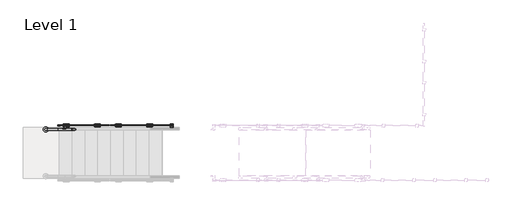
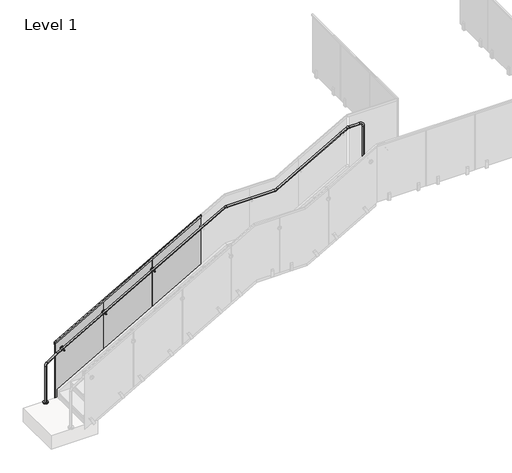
# One storey, part 10 of 17: 1 railing.
"""IFC4 building model written with IfcOpenShell, lengths in millimetres."""

from ifc_helpers import new_model, si_unit, point, frame, frame_2d, origin, origin_with_axes, place, context, project, spatial, polyline, circle_curve, ellipse_curve, trimmed, segment, composite_curve, outline, extrude, faceted_brep, element, save
from ifc_brep_helpers import plane_surface, cylinder_surface, revolved_surface, advanced_brep

model = new_model("IFC4")

# Units and contexts
model_context = context("Model", 3, world=origin())
ifc_project = project(units=[si_unit("LENGTHUNIT", "METRE", prefix="MILLI")], contexts=[model_context])

# Site, building, storey
site = spatial("IfcSite", under=ifc_project)
building = spatial("IfcBuilding", under=site)
storey = spatial("IfcBuildingStorey", under=building, Name="Level 1", Elevation=0.0)

# Railing
placement = place(None, origin())
element("IfcRailing", 1, ObjectType="VIVA-VISIO-Glass-Steel Fascia Mount-Stair_Lower", at=placement, inside=storey, context=model_context, shape_type="SolidModel", body=[
    extrude(outline(composite_curve([segment(trimmed(circle_curve(frame_2d((30754.4362561, -11656.3117549)), 50.8), [point((30754.4362561, -11707.1117549))], [point((30754.4362561, -11605.5117549))], False, "CARTESIAN"), True, "CONTINUOUS"), segment(trimmed(circle_curve(frame_2d((30754.4362561, -11656.3117549)), 50.8), [point((30754.4362561, -11605.5117549))], [point((30754.4362561, -11707.1117549))], False, "CARTESIAN"), True, "CONTINUOUS")], self_intersect=False)), frame((0.0, 0.0, 3048.0), z_axis=(0.0, 0.0, 1.0), x_axis=(1.0, 0.0, 0.0)), (0.0, 0.0, 1.0), 19.05),
    extrude(outline(composite_curve([segment(trimmed(circle_curve(frame_2d((24036.1362561, -11656.3117549)), 50.8), [point((24036.1362561, -11605.5117549))], [point((24036.1362561, -11707.1117549))], False, "CARTESIAN"), True, "CONTINUOUS"), segment(trimmed(circle_curve(frame_2d((24036.1362561, -11656.3117549)), 50.8), [point((24036.1362561, -11707.1117549))], [point((24036.1362561, -11605.5117549))], False, "CARTESIAN"), True, "CONTINUOUS")], self_intersect=False)), origin_with_axes(), (0.0, 0.0, 1.0), 19.05),
    advanced_brep(
    [(24036.1362561, -11675.3617549, 19.05), (24036.1362561, -11637.2617549, 19.05), (24036.1362561, -11675.3617549, 815.8777111), (24036.1362561, -11637.2617549, 815.8777111), (24072.8957549, -11637.2617549, 884.5634629), (24072.8957549, -11675.3617549, 884.5634629), (24278.7417076, -11675.3617549, 1021.794098), (24278.7417076, -11637.2617549, 1021.794098), (24283.5759394, -11637.2617549, 1024.7818176), (24283.5759394, -11675.3617549, 1024.7818176), (27379.3377028, -11675.3617549, 2793.7885396), (27379.3377028, -11637.2617549, 2793.7885396), (27813.1113335, -11675.3617549, 3041.6591857), (27813.1113335, -11637.2617549, 3041.6591857), (27854.0676029, -11637.2617549, 3052.5357143), (27854.0676029, -11675.3617549, 3052.5357143), (28866.9049093, -11675.3617549, 3052.5357143), (28866.9049093, -11637.2617549, 3052.5357143), (28926.7640722, -11637.2617549, 3068.4321792), (28926.7640722, -11675.3617549, 3068.4321792), (30403.9113335, -11675.3617549, 3912.5163285), (30403.9113335, -11637.2617549, 3912.5163285), (30444.8676029, -11637.2617549, 3923.3928571), (30444.8676029, -11675.3617549, 3923.3928571), (30671.8862561, -11675.3617549, 3923.3928571), (30671.8862561, -11637.2617549, 3923.3928571), (30754.4362561, -11637.2617549, 3840.8428571), (30754.4362561, -11675.3617549, 3840.8428571), (30754.4362561, -11675.3617549, 3067.05), (30754.4362561, -11637.2617549, 3067.05)],
    [
        (0, 1, circle_curve(frame((24036.1362561, -11656.3117549, 19.05), z_axis=(0.0, 0.0, -1.0), x_axis=(0.0, 1.0, 0.0)), 19.05)),
        (1, 0, circle_curve(frame((24036.1362561, -11656.3117549, 19.05), z_axis=(0.0, 0.0, -1.0), x_axis=(0.0, 1.0, 0.0)), 19.05)),
        (0, 2),
        (2, 3, circle_curve(frame((24036.1362561, -11656.3117549, 815.8777111), z_axis=(0.0, 0.0, -1.0), x_axis=(0.0, 1.0, 0.0)), 19.05)),
        (3, 1),
        (3, 2, circle_curve(frame((24036.1362561, -11656.3117549, 815.8777111), z_axis=(0.0, 0.0, -1.0), x_axis=(0.0, 1.0, 0.0)), 19.05)),
        (4, 3, circle_curve(frame((24118.6862561, -11637.2617549, 815.8777111), z_axis=(0.0, -1.0, 0.0), x_axis=(-0.9999999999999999, 0.0, 0.0)), 82.55)),
        (2, 5, circle_curve(frame((24118.6862561, -11675.3617549, 815.8777111), z_axis=(0.0, 1.0, 0.0), x_axis=(-0.9999999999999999, 0.0, 0.0)), 82.55)),
        (5, 4, circle_curve(frame((24072.8957549, -11656.3117549, 884.5634629), z_axis=(-0.8320502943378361, 0.0, -0.5547001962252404), x_axis=(0.0, 0.9999999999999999, 0.0)), 19.05)),
        (4, 5, circle_curve(frame((24072.8957549, -11656.3117549, 884.5634629), z_axis=(-0.8320502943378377, 0.0, -0.5547001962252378), x_axis=(0.0, 0.9999999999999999, 0.0)), 19.05)),
        (5, 6),
        (6, 7, circle_curve(frame((24278.7417076, -11656.3117549, 1021.794098), z_axis=(-0.8320502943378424, 0.0, -0.554700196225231), x_axis=(0.0, 1.0, 0.0)), 19.05)),
        (7, 4),
        (7, 6, circle_curve(frame((24278.7417076, -11656.3117549, 1021.794098), z_axis=(-0.8320502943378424, 0.0, -0.554700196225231), x_axis=(0.0, 1.0, 0.0)), 19.05)),
        (8, 9, circle_curve(frame((24283.5759394, -11656.3117549, 1024.7818176), z_axis=(0.8682431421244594, 0.0, 0.4961389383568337), x_axis=(0.0, 1.0, 0.0)), 19.05)),
        (9, 10),
        (10, 11, circle_curve(frame((27379.3377028, -11656.3117549, 2793.7885396), z_axis=(-0.8682431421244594, 0.0, -0.4961389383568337), x_axis=(0.0, 1.0, 0.0)), 19.05)),
        (11, 8),
        (9, 8, circle_curve(frame((24283.5759394, -11656.3117549, 1024.7818176), z_axis=(0.8682431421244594, 0.0, 0.4961389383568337), x_axis=(0.0, 1.0, 0.0)), 19.05)),
        (11, 10, circle_curve(frame((27379.3377028, -11656.3117549, 2793.7885396), z_axis=(-0.8682431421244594, 0.0, -0.4961389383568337), x_axis=(0.0, 1.0, 0.0)), 19.05)),
        (8, 7, circle_curve(frame((24324.5322088, -11637.2617549, 953.1083462), z_axis=(0.0, -1.0, 0.0), x_axis=(-0.5547001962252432, 0.0, 0.8320502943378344)), 82.55)),
        (6, 9, circle_curve(frame((24324.5322088, -11675.3617549, 953.1083462), z_axis=(0.0, 1.0, 0.0), x_axis=(-0.5547001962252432, 0.0, 0.8320502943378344)), 82.55)),
        (10, 12),
        (12, 13, circle_curve(frame((27813.1113335, -11656.3117549, 3041.6591857), z_axis=(-0.8682431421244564, 0.0, -0.4961389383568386), x_axis=(0.0, 1.0, 0.0)), 19.05)),
        (13, 11),
        (13, 12, circle_curve(frame((27813.1113335, -11656.3117549, 3041.6591857), z_axis=(-0.8682431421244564, 0.0, -0.4961389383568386), x_axis=(0.0, 1.0, 0.0)), 19.05)),
        (14, 13, circle_curve(frame((27854.0676029, -11637.2617549, 2969.9857143), z_axis=(0.0, -1.0, 0.0), x_axis=(-0.49613893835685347, 0.0, 0.8682431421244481)), 82.55)),
        (12, 15, circle_curve(frame((27854.0676029, -11675.3617549, 2969.9857143), z_axis=(0.0, 1.0, 0.0), x_axis=(-0.49613893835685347, 0.0, 0.8682431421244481)), 82.55)),
        (15, 14, circle_curve(frame((27854.0676029, -11656.3117549, 3052.5357143), z_axis=(-1.0000000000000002, 0.0, 0.0), x_axis=(0.0, 1.0, 0.0)), 19.05)),
        (14, 15, circle_curve(frame((27854.0676029, -11656.3117549, 3052.5357143), z_axis=(-1.0, 0.0, 0.0), x_axis=(0.0, 1.0, 0.0)), 19.05)),
        (15, 16),
        (16, 17, circle_curve(frame((28866.9049093, -11656.3117549, 3052.5357143), z_axis=(-1.0, 0.0, 0.0), x_axis=(0.0, 1.0, 0.0)), 19.05)),
        (17, 14),
        (17, 16, circle_curve(frame((28866.9049093, -11656.3117549, 3052.5357143), z_axis=(-1.0, 0.0, 0.0), x_axis=(0.0, 1.0, 0.0)), 19.05)),
        (18, 17, circle_curve(frame((28866.9049093, -11637.2617549, 3173.1857143), z_axis=(0.0, 1.0, 0.0), x_axis=(0.0, 0.0, -0.9999999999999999)), 120.65)),
        (16, 19, circle_curve(frame((28866.9049093, -11675.3617549, 3173.1857143), z_axis=(0.0, -1.0, 0.0), x_axis=(0.0, 0.0, -0.9999999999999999)), 120.65)),
        (19, 18, circle_curve(frame((28926.7640722, -11656.3117549, 3068.4321792), z_axis=(-0.8682431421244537, 0.0, -0.4961389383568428), x_axis=(0.0, 0.9999999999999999, 0.0)), 19.05)),
        (18, 19, circle_curve(frame((28926.7640722, -11656.3117549, 3068.4321792), z_axis=(-0.8682431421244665, 0.0, -0.49613893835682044), x_axis=(0.0, 0.9999999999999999, 0.0)), 19.05)),
        (19, 20),
        (20, 21, circle_curve(frame((30403.9113335, -11656.3117549, 3912.5163285), z_axis=(-0.8682431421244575, 0.0, -0.49613893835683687), x_axis=(0.0, 1.0, 0.0)), 19.05)),
        (21, 18),
        (21, 20, circle_curve(frame((30403.9113335, -11656.3117549, 3912.5163285), z_axis=(-0.8682431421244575, 0.0, -0.49613893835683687), x_axis=(0.0, 1.0, 0.0)), 19.05)),
        (22, 21, circle_curve(frame((30444.8676029, -11637.2617549, 3840.8428571), z_axis=(0.0, -1.0, 0.0), x_axis=(-0.49613893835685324, 0.0, 0.868243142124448)), 82.55)),
        (20, 23, circle_curve(frame((30444.8676029, -11675.3617549, 3840.8428571), z_axis=(0.0, 1.0, 0.0), x_axis=(-0.49613893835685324, 0.0, 0.868243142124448)), 82.55)),
        (23, 22, circle_curve(frame((30444.8676029, -11656.3117549, 3923.3928571), z_axis=(-0.9999999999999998, 0.0, 0.0), x_axis=(0.0, 0.9999999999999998, 0.0)), 19.05)),
        (22, 23, circle_curve(frame((30444.8676029, -11656.3117549, 3923.3928571), z_axis=(-0.9999999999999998, 0.0, 0.0), x_axis=(0.0, 0.9999999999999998, 0.0)), 19.05)),
        (23, 24),
        (24, 25, circle_curve(frame((30671.8862561, -11656.3117549, 3923.3928571), z_axis=(-1.0, 0.0, 0.0), x_axis=(0.0, 1.0, 0.0)), 19.05)),
        (25, 22),
        (25, 24, circle_curve(frame((30671.8862561, -11656.3117549, 3923.3928571), z_axis=(-1.0, 0.0, 0.0), x_axis=(0.0, 1.0, 0.0)), 19.05)),
        (26, 25, circle_curve(frame((30671.8862561, -11637.2617549, 3840.8428571), z_axis=(0.0, -1.0, 0.0), x_axis=(0.0, 0.0, 1.0)), 82.55)),
        (24, 27, circle_curve(frame((30671.8862561, -11675.3617549, 3840.8428571), z_axis=(0.0, 1.0, 0.0), x_axis=(0.0, 0.0, 1.0)), 82.55)),
        (27, 26, circle_curve(frame((30754.4362561, -11656.3117549, 3840.8428571), z_axis=(0.0, 0.0, 1.0), x_axis=(0.0, 1.0, 0.0)), 19.05)),
        (26, 27, circle_curve(frame((30754.4362561, -11656.3117549, 3840.8428571), z_axis=(0.0, 0.0, 1.0), x_axis=(0.0, 1.0, 0.0)), 19.05)),
        (28, 29, circle_curve(frame((30754.4362561, -11656.3117549, 3067.05), z_axis=(0.0, 0.0, -1.0), x_axis=(0.0, 1.0, 0.0)), 19.05)),
        (29, 28, circle_curve(frame((30754.4362561, -11656.3117549, 3067.05), z_axis=(0.0, 0.0, -1.0), x_axis=(0.0, 1.0, 0.0)), 19.05)),
        (27, 28),
        (29, 26),
    ],
    [
        plane_surface(frame((24017.0862561, -11694.4117549, 19.05), z_axis=(0.0, 0.0, -1.0), x_axis=(1.0, 0.0, 0.0))),
        cylinder_surface(frame((24036.1362561, -11656.3117549, 19.05), z_axis=(0.0, 0.0, -1.0), x_axis=(0.0, 1.0, 0.0)), 19.05),
        revolved_surface(trimmed(ellipse_curve(frame((24036.1362561, -11656.3117549, 815.8777111), z_axis=(0.0, 0.0, -0.9999999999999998), x_axis=(0.0, 0.9999999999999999, 0.0)), 19.05, 19.05), [point((24036.1362561, -11675.3617549, 815.8777111))], [point((24036.1362561, -11637.2617549, 815.8777111))], True, "CARTESIAN"), (24118.6862561, -11656.3117549, 815.8777111), (0.0, 0.9999999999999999, 0.0)),
        revolved_surface(trimmed(ellipse_curve(frame((24036.1362561, -11656.3117549, 815.8777111), z_axis=(0.0, 0.0, -0.9999999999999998), x_axis=(0.0, 0.9999999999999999, 0.0)), 19.05, 19.05), [point((24036.1362561, -11637.2617549, 815.8777111))], [point((24036.1362561, -11675.3617549, 815.8777111))], True, "CARTESIAN"), (24118.6862561, -11656.3117549, 815.8777111), (0.0, 0.9999999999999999, 0.0)),
        cylinder_surface(frame((24072.8957549, -11656.3117549, 884.5634629), z_axis=(-0.8320502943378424, 0.0, -0.554700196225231), x_axis=(0.0, 1.0, 0.0)), 19.05),
        cylinder_surface(frame((24283.5759394, -11656.3117549, 1024.7818176), z_axis=(-0.8682431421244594, 0.0, -0.4961389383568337), x_axis=(0.0, 1.0, 0.0)), 19.05),
        revolved_surface(trimmed(ellipse_curve(frame((24278.7417076, -11656.3117549, 1021.794098), z_axis=(-0.8320502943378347, 0.0, -0.5547001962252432), x_axis=(0.0, 1.0000000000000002, 0.0)), 19.05, 19.05), [point((24278.7417076, -11675.3617549, 1021.794098))], [point((24278.7417076, -11637.2617549, 1021.794098))], True, "CARTESIAN"), (24324.5322088, -11656.3117549, 953.1083462), (0.0, 1.0000000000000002, 0.0)),
        revolved_surface(trimmed(ellipse_curve(frame((24278.7417076, -11656.3117549, 1021.794098), z_axis=(-0.8320502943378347, 0.0, -0.5547001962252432), x_axis=(0.0, 1.0000000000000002, 0.0)), 19.05, 19.05), [point((24278.7417076, -11637.2617549, 1021.794098))], [point((24278.7417076, -11675.3617549, 1021.794098))], True, "CARTESIAN"), (24324.5322088, -11656.3117549, 953.1083462), (0.0, 1.0000000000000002, 0.0)),
        cylinder_surface(frame((27379.3377028, -11656.3117549, 2793.7885396), z_axis=(-0.8682431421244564, 0.0, -0.4961389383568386), x_axis=(0.0, 1.0, 0.0)), 19.05),
        revolved_surface(trimmed(ellipse_curve(frame((27813.1113335, -11656.3117549, 3041.6591857), z_axis=(-0.8682431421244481, 0.0, -0.49613893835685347), x_axis=(0.0, 1.0, 0.0)), 19.05, 19.05), [point((27813.1113335, -11675.3617549, 3041.6591857))], [point((27813.1113335, -11637.2617549, 3041.6591857))], True, "CARTESIAN"), (27854.0676029, -11656.3117549, 2969.9857143), (0.0, 1.0, 0.0)),
        revolved_surface(trimmed(ellipse_curve(frame((27813.1113335, -11656.3117549, 3041.6591857), z_axis=(-0.8682431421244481, 0.0, -0.49613893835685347), x_axis=(0.0, 1.0, 0.0)), 19.05, 19.05), [point((27813.1113335, -11637.2617549, 3041.6591857))], [point((27813.1113335, -11675.3617549, 3041.6591857))], True, "CARTESIAN"), (27854.0676029, -11656.3117549, 2969.9857143), (0.0, 1.0, 0.0)),
        cylinder_surface(frame((27854.0676029, -11656.3117549, 3052.5357143), z_axis=(-1.0, 0.0, 0.0), x_axis=(0.0, 1.0, 0.0)), 19.05),
        revolved_surface(trimmed(ellipse_curve(frame((28866.9049093, -11656.3117549, 3052.5357143), z_axis=(-0.9999999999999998, 0.0, 0.0), x_axis=(0.0, 0.9999999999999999, 0.0)), 19.05, 19.05), [point((28866.9049093, -11675.3617549, 3052.5357143))], [point((28866.9049093, -11637.2617549, 3052.5357143))], True, "CARTESIAN"), (28866.9049093, -11656.3117549, 3173.1857143), (0.0, -0.9999999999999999, 0.0)),
        revolved_surface(trimmed(ellipse_curve(frame((28866.9049093, -11656.3117549, 3052.5357143), z_axis=(-0.9999999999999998, 0.0, 0.0), x_axis=(0.0, 0.9999999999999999, 0.0)), 19.05, 19.05), [point((28866.9049093, -11637.2617549, 3052.5357143))], [point((28866.9049093, -11675.3617549, 3052.5357143))], True, "CARTESIAN"), (28866.9049093, -11656.3117549, 3173.1857143), (0.0, -0.9999999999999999, 0.0)),
        cylinder_surface(frame((28926.7640722, -11656.3117549, 3068.4321792), z_axis=(-0.8682431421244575, 0.0, -0.49613893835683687), x_axis=(0.0, 1.0, 0.0)), 19.05),
        revolved_surface(trimmed(ellipse_curve(frame((30403.9113335, -11656.3117549, 3912.5163285), z_axis=(-0.8682431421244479, 0.0, -0.49613893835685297), x_axis=(0.0, 0.9999999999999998, 0.0)), 19.05, 19.05), [point((30403.9113335, -11675.3617549, 3912.5163285))], [point((30403.9113335, -11637.2617549, 3912.5163285))], True, "CARTESIAN"), (30444.8676029, -11656.3117549, 3840.8428571), (0.0, 0.9999999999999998, 0.0)),
        revolved_surface(trimmed(ellipse_curve(frame((30403.9113335, -11656.3117549, 3912.5163285), z_axis=(-0.8682431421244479, 0.0, -0.49613893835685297), x_axis=(0.0, 0.9999999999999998, 0.0)), 19.05, 19.05), [point((30403.9113335, -11637.2617549, 3912.5163285))], [point((30403.9113335, -11675.3617549, 3912.5163285))], True, "CARTESIAN"), (30444.8676029, -11656.3117549, 3840.8428571), (0.0, 0.9999999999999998, 0.0)),
        cylinder_surface(frame((30444.8676029, -11656.3117549, 3923.3928571), z_axis=(-1.0, 0.0, 0.0), x_axis=(0.0, 1.0, 0.0)), 19.05),
        revolved_surface(trimmed(ellipse_curve(frame((30671.8862561, -11656.3117549, 3923.3928571), z_axis=(-1.0, 0.0, 0.0), x_axis=(0.0, 1.0, 0.0)), 19.05, 19.05), [point((30671.8862561, -11675.3617549, 3923.3928571))], [point((30671.8862561, -11637.2617549, 3923.3928571))], True, "CARTESIAN"), (30671.8862561, -11656.3117549, 3840.8428571), (0.0, 1.0, 0.0)),
        revolved_surface(trimmed(ellipse_curve(frame((30671.8862561, -11656.3117549, 3923.3928571), z_axis=(-1.0, 0.0, 0.0), x_axis=(0.0, 1.0, 0.0)), 19.05, 19.05), [point((30671.8862561, -11637.2617549, 3923.3928571))], [point((30671.8862561, -11675.3617549, 3923.3928571))], True, "CARTESIAN"), (30671.8862561, -11656.3117549, 3840.8428571), (0.0, 1.0, 0.0)),
        plane_surface(frame((30773.4862561, -11694.4117549, 3067.05), z_axis=(0.0, 0.0, -1.0), x_axis=(-1.0, 0.0, 0.0))),
        cylinder_surface(frame((30754.4362561, -11656.3117549, 3840.8428571), z_axis=(0.0, 0.0, 1.0), x_axis=(0.0, 1.0, 0.0)), 19.05),
    ],
    [
        (0, [[1, 2]]),
        (1, [[-1, 3, 4, 5]]),
        (1, [[-2, -5, 6, -3]]),
        (2, [[7, -4, 8, 9]]),
        (3, [[-8, -6, -7, 10]]),
        (4, [[-9, 11, 12, 13]]),
        (4, [[-10, -13, 14, -11]]),
        (5, [[15, 16, 17, 18]]),
        (5, [[19, -18, 20, -16]]),
        (6, [[21, -12, 22, -15]]),
        (7, [[-22, -14, -21, -19]]),
        (8, [[-17, 23, 24, 25]]),
        (8, [[-20, -25, 26, -23]]),
        (9, [[27, -24, 28, 29]]),
        (10, [[-28, -26, -27, 30]]),
        (11, [[-29, 31, 32, 33]]),
        (11, [[-30, -33, 34, -31]]),
        (12, [[35, -32, 36, 37]]),
        (13, [[-36, -34, -35, 38]]),
        (14, [[-37, 39, 40, 41]]),
        (14, [[-38, -41, 42, -39]]),
        (15, [[43, -40, 44, 45]]),
        (16, [[-44, -42, -43, 46]]),
        (17, [[-45, 47, 48, 49]]),
        (17, [[-46, -49, 50, -47]]),
        (18, [[51, -48, 52, 53]]),
        (19, [[-52, -50, -51, 54]]),
        (20, [[55, 56]]),
        (21, [[-53, 57, -56, 58]]),
        (21, [[-54, -58, -55, -57]]),
    ],
),
    faceted_brep([(24271.0862561, -11584.5567549, 1217.3857143), (24271.0862561, -11562.8278486, 1217.3857143), (24271.0862561, -11562.8278486, 1173.5039971), (24271.0862561, -11567.3423017, 1173.5039971), (24271.0862561, -11567.3423017, 1212.9975426), (24271.0862561, -11580.0423017, 1212.9975426), (24271.0862561, -11580.0423017, 1173.5039971), (24271.0862561, -11584.5567549, 1173.5039971), (27369.8862561, -11584.5567549, 2988.1285714), (27369.8862561, -11584.5567549, 2944.2468543), (27369.8862561, -11580.0423017, 2944.2468543), (27369.8862561, -11580.0423017, 2983.7403997), (27369.8862561, -11567.3423017, 2983.7403997), (27369.8862561, -11567.3423017, 2944.2468543), (27369.8862561, -11562.8278486, 2944.2468543), (27369.8862561, -11562.8278486, 2988.1285714)], [[[0, 1, 2, 3, 4, 5, 6, 7]], [[8, 9, 10, 11, 12, 13, 14, 15]], [[1, 0, 8, 15]], [[2, 1, 15, 14]], [[3, 2, 14, 13]], [[4, 3, 13, 12]], [[5, 4, 12, 11]], [[6, 5, 11, 10]], [[7, 6, 10, 9]], [[0, 7, 9, 8]]]),
    extrude(outline(polyline([(0.0, -12.7), (0.0, 0.0), (50.8, 0.0), (50.8, -12.7), (0.0, -12.7)])), frame((27136.9894064, -11599.1617549, 1528.4517196), z_axis=(-0.4961389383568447, 0.0, 0.868243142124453), x_axis=(0.868243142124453, 0.0, 0.4961389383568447)), (0.0, 0.0, 1.0), 135.5680003),
    extrude(outline(polyline([(0.0, -12.7), (0.0, 0.0), (50.7999999, 0.0), (50.7999999, -12.7), (0.0, -12.7)])), frame((27138.2329955, -11567.4117549, 1526.2754387), z_axis=(-0.496138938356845, 0.0, 0.8682431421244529), x_axis=(0.8682431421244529, 0.0, 0.496138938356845)), (0.0, 0.0, 1.0), 36.5125),
    extrude(outline(polyline([(0.0, 0.0), (139.7, 0.0), (166.6875, -11.1125), (166.6875, -19.05), (0.0, -19.05), (0.0, 0.0)])), frame((27138.2329955, -11599.1617549, 1526.2754387), z_axis=(0.868243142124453, 0.0, 0.49613893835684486), x_axis=(-0.49613893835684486, 0.0, 0.868243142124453)), (0.0, 0.0, 1.0), 50.8),
    extrude(outline(polyline([(0.0, -50.8), (0.0, -31.75), (166.6875, -31.75), (166.6875, -39.6875), (139.7, -50.8), (0.0, -50.8)])), frame((27138.2329955, -11599.1617549, 1526.2754387), z_axis=(0.868243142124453, 0.0, 0.49613893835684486), x_axis=(-0.49613893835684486, 0.0, 0.868243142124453)), (0.0, 0.0, 1.0), 50.8),
    extrude(outline(polyline([(2981.5065494, 27361.802636), (2400.9351209, 26345.802636), (1115.5486476, 26345.802636), (1696.1200762, 27361.802636), (2981.5065494, 27361.802636)])), frame((0.0, -11580.1117549, 0.0), z_axis=(0.0, 1.0, 0.0), x_axis=(0.0, 0.0, 1.0)), (0.0, 0.0, 1.0), 12.7),
    extrude(outline(polyline([(0.0, -12.7), (0.0, 0.0), (50.8, 0.0), (50.8, -12.7), (0.0, -12.7)])), frame((26517.2294064, -11599.1617549, 1174.3031482), z_axis=(-0.4961389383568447, 0.0, 0.868243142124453), x_axis=(0.868243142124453, 0.0, 0.4961389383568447)), (0.0, 0.0, 1.0), 135.5680003),
    extrude(outline(polyline([(0.0, -12.7), (0.0, 0.0), (50.8, 0.0), (50.8, -12.7), (0.0, -12.7)])), frame((26518.4729955, -11567.4117549, 1172.1268672), z_axis=(-0.496138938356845, 0.0, 0.8682431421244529), x_axis=(0.8682431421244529, 0.0, 0.496138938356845)), (0.0, 0.0, 1.0), 36.5125),
    extrude(outline(polyline([(0.0, 0.0), (139.7, 0.0), (166.6875, -11.1125), (166.6875, -19.05), (0.0, -19.05), (0.0, 0.0)])), frame((26518.4729955, -11599.1617549, 1172.1268672), z_axis=(0.868243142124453, 0.0, 0.49613893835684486), x_axis=(-0.49613893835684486, 0.0, 0.868243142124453)), (0.0, 0.0, 1.0), 50.8),
    extrude(outline(polyline([(0.0, -50.8), (0.0, -31.75), (166.6875, -31.75), (166.6875, -39.6875), (139.7, -50.8), (0.0, -50.8)])), frame((26518.4729955, -11599.1617549, 1172.1268672), z_axis=(0.868243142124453, 0.0, 0.49613893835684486), x_axis=(-0.49613893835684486, 0.0, 0.868243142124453)), (0.0, 0.0, 1.0), 50.8),
    extrude(outline(composite_curve([segment(trimmed(circle_curve(frame_2d((0.0, 7.0)), 7.0), [point((0.0, 14.0))], [point((0.0, 0.0))], False, "CARTESIAN"), True, "CONTINUOUS"), segment(trimmed(circle_curve(frame_2d((0.0, 7.0)), 7.0), [point((0.0, 0.0))], [point((0.0, 14.0))], False, "CARTESIAN"), True, "CONTINUOUS")], self_intersect=False)), frame((26349.7491159, -11648.9816158, 2118.4424369), z_axis=(-0.5018548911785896, 0.0, 0.8649518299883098), x_axis=(-0.8649518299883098, 0.0, -0.5018548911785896)), (0.0, 0.0, 1.0), 52.8378352),
    extrude(outline(composite_curve([segment(polyline([(5.2466064, -13.9247915), (4.2292194, -14.9511811)]), True, "CONTINUOUS"), segment(trimmed(circle_curve(frame_2d((3.1638975, -13.8952033)), 1.5), [point((4.2292194, -14.9511811))], [point((2.0329757, -14.8806047))], False, "CARTESIAN"), True, "CONTINUOUS"), segment(trimmed(circle_curve(frame_2d((18.6575252, -0.3952033)), 22.05), [point((2.0329757, -14.8806047))], [point((2.0329757, 14.0901982))], False, "CARTESIAN"), True, "CONTINUOUS"), segment(trimmed(circle_curve(frame_2d((3.1638975, 13.1047967)), 1.5), [point((2.0329757, 14.0901982))], [point((4.2292194, 14.1607746))], False, "CARTESIAN"), True, "CONTINUOUS"), segment(polyline([(4.2292194, 14.1607746), (5.2466064, 13.134385)]), True, "CONTINUOUS"), segment(trimmed(circle_curve(frame_2d((18.6575252, -0.3952033)), 19.05), [point((5.2466064, 13.134385))], [point((5.2466064, -13.9247915))], True, "CARTESIAN"), True, "CONTINUOUS")], self_intersect=False)), frame((26285.2813338, -11657.7088481, 2146.1836197), z_axis=(0.8664916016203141, 0.0, 0.49919165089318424), x_axis=(-0.49919165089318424, 0.0, 0.8664916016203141)), (0.0, 0.0, 1.0), 74.5229187),
    extrude(outline(composite_curve([segment(trimmed(circle_curve(frame_2d((2140.5789524, 26336.9529227)), 11.0132813), [point((2140.5789524, 26347.966204))], [point((2140.5789524, 26325.9396415))], False, "CARTESIAN"), True, "CONTINUOUS"), segment(trimmed(circle_curve(frame_2d((2140.5789524, 26336.9529227)), 11.0132813), [point((2140.5789524, 26325.9396415))], [point((2140.5789524, 26347.966204))], False, "CARTESIAN"), True, "CONTINUOUS")], self_intersect=False)), frame((0.0, -11669.0117549, 0.0), z_axis=(0.0, 1.0, 0.0), x_axis=(0.0, 0.0, 1.0)), (0.0, 0.0, 1.0), 79.2757813),
    advanced_brep(
    [(26336.9529227, -11557.7875361, 2140.5789524), (26336.9529227, -11557.7875361, 2104.4633274), (26336.9529227, -11557.7875361, 2176.6945774), (26336.9529227, -11589.7359736, 2104.4633274), (26336.9529227, -11589.7359736, 2140.5789524), (26336.9529227, -11589.7359736, 2176.6945774), (26336.9529227, -11587.7515986, 2102.4789524), (26336.9529227, -11587.7515986, 2178.6789524), (26336.9529227, -11580.1117549, 2102.4789524), (26336.9529227, -11580.1117549, 2178.6789524), (26336.9529227, -11580.1117549, 2127.8789524), (26336.9529227, -11580.1117549, 2153.2789524), (26336.9529227, -11567.4117549, 2127.8789524), (26336.9529227, -11567.4117549, 2153.2789524), (26336.9529227, -11567.4117549, 2102.4789524), (26336.9529227, -11567.4117549, 2178.6789524), (26336.9529227, -11559.7719111, 2102.4789524), (26336.9529227, -11559.7719111, 2178.6789524)],
    [
        (0, 1),
        (1, 2, circle_curve(frame((26336.9529227, -11557.7875361, 2140.5789524), z_axis=(0.0, 1.0, 0.0), x_axis=(0.0, 0.0, 1.0)), 36.115625)),
        (2, 0),
        (2, 1, circle_curve(frame((26336.9529227, -11557.7875361, 2140.5789524), z_axis=(0.0, 1.0, 0.0), x_axis=(0.0, 0.0, 1.0)), 36.115625)),
        (3, 4),
        (4, 5),
        (5, 3, circle_curve(frame((26336.9529227, -11589.7359736, 2140.5789524), z_axis=(0.0, -1.0, 0.0), x_axis=(0.0, 0.0, 1.0)), 36.115625)),
        (3, 5, circle_curve(frame((26336.9529227, -11589.7359736, 2140.5789524), z_axis=(0.0, -1.0, 0.0), x_axis=(0.0, 0.0, 1.0)), 36.115625)),
        (6, 3),
        (5, 7),
        (7, 6, circle_curve(frame((26336.9529227, -11587.7515986, 2140.5789524), z_axis=(0.0, -1.0, 0.0), x_axis=(0.0, 0.0, 1.0)), 38.1)),
        (6, 7, circle_curve(frame((26336.9529227, -11587.7515986, 2140.5789524), z_axis=(0.0, -1.0, 0.0), x_axis=(0.0, 0.0, 1.0)), 38.1)),
        (8, 6),
        (7, 9),
        (9, 8, circle_curve(frame((26336.9529227, -11580.1117549, 2140.5789524), z_axis=(0.0, -1.0, 0.0), x_axis=(0.0, 0.0, 1.0)), 38.1)),
        (8, 9, circle_curve(frame((26336.9529227, -11580.1117549, 2140.5789524), z_axis=(0.0, -1.0, 0.0), x_axis=(0.0, 0.0, 1.0)), 38.1)),
        (10, 8),
        (9, 11),
        (11, 10, circle_curve(frame((26336.9529227, -11580.1117549, 2140.5789524), z_axis=(0.0, -1.0, 0.0), x_axis=(0.0, 0.0, 1.0)), 12.7)),
        (10, 11, circle_curve(frame((26336.9529227, -11580.1117549, 2140.5789524), z_axis=(0.0, -1.0, 0.0), x_axis=(0.0, 0.0, 1.0)), 12.7)),
        (12, 10),
        (11, 13),
        (13, 12, circle_curve(frame((26336.9529227, -11567.4117549, 2140.5789524), z_axis=(0.0, -1.0, 0.0), x_axis=(0.0, 0.0, 1.0)), 12.7)),
        (12, 13, circle_curve(frame((26336.9529227, -11567.4117549, 2140.5789524), z_axis=(0.0, -1.0, 0.0), x_axis=(0.0, 0.0, 1.0)), 12.7)),
        (14, 12),
        (13, 15),
        (15, 14, circle_curve(frame((26336.9529227, -11567.4117549, 2140.5789524), z_axis=(0.0, -1.0, 0.0), x_axis=(0.0, 0.0, 1.0)), 38.1)),
        (14, 15, circle_curve(frame((26336.9529227, -11567.4117549, 2140.5789524), z_axis=(0.0, -1.0, 0.0), x_axis=(0.0, 0.0, 1.0)), 38.1)),
        (16, 14),
        (15, 17),
        (17, 16, circle_curve(frame((26336.9529227, -11559.7719111, 2140.5789524), z_axis=(0.0, -1.0, 0.0), x_axis=(0.0, 0.0, 1.0)), 38.1)),
        (16, 17, circle_curve(frame((26336.9529227, -11559.7719111, 2140.5789524), z_axis=(0.0, -1.0, 0.0), x_axis=(0.0, 0.0, 1.0)), 38.1)),
        (1, 16),
        (17, 2),
    ],
    [
        plane_surface(frame((26336.9529227, -11557.7875361, 2140.5789524), z_axis=(0.0, 1.0, 0.0), x_axis=(0.0, 0.0, 1.0))),
        plane_surface(frame((26336.9529227, -11589.7359736, 2140.5789524), z_axis=(0.0, -1.0, 0.0), x_axis=(0.0, 0.0, 1.0))),
        revolved_surface(polyline([(26336.9529227, -11589.7359736, 2176.6945774), (26336.9529227, -11587.7515986, 2178.6789524)]), (26336.9529227, -11521.6719111, 2140.5789524), (0.0, 1.0, 0.0)),
        cylinder_surface(frame((26336.9529227, -11521.6719111, 2140.5789524), z_axis=(0.0, 1.0, 0.0), x_axis=(0.0, 0.0, 1.0)), 38.1),
        plane_surface(frame((26336.9529227, -11580.1117549, 2140.5789524), z_axis=(0.0, 1.0, 0.0), x_axis=(0.0, 0.0, 1.0))),
        cylinder_surface(frame((26336.9529227, -11521.6719111, 2140.5789524), z_axis=(0.0, 1.0, 0.0), x_axis=(0.0, 0.0, 1.0)), 12.7),
        plane_surface(frame((26336.9529227, -11567.4117549, 2140.5789524), z_axis=(0.0, -1.0, 0.0), x_axis=(0.0, 0.0, 1.0))),
        revolved_surface(polyline([(26336.9529227, -11559.7719111, 2178.6789524), (26336.9529227, -11557.7875361, 2176.6945774)]), (26336.9529227, -11521.6719111, 2140.5789524), (0.0, 1.0, 0.0)),
    ],
    [
        (0, [[1, 2, 3]]),
        (0, [[-3, 4, -1]]),
        (1, [[5, 6, 7]]),
        (1, [[-6, -5, 8]]),
        (2, [[9, -7, 10, 11]]),
        (2, [[-10, -8, -9, 12]]),
        (3, [[13, -11, 14, 15]]),
        (3, [[-14, -12, -13, 16]]),
        (4, [[17, -15, 18, 19]]),
        (4, [[-18, -16, -17, 20]]),
        (5, [[21, -19, 22, 23]]),
        (5, [[-22, -20, -21, 24]]),
        (6, [[25, -23, 26, 27]]),
        (6, [[-26, -24, -25, 28]]),
        (3, [[29, -27, 30, 31]]),
        (3, [[-30, -28, -29, 32]]),
        (7, [[33, -31, 34, -2]]),
        (7, [[-34, -32, -33, -4]]),
    ],
),
    extrude(outline(polyline([(0.0, -12.7), (0.0, 0.0), (50.8, 0.0), (50.8, -12.7), (0.0, -12.7)])), frame((26104.056073, -11599.1617549, 938.2041006), z_axis=(-0.4961389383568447, 0.0, 0.868243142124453), x_axis=(0.868243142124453, 0.0, 0.4961389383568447)), (0.0, 0.0, 1.0), 135.5680003),
    extrude(outline(polyline([(0.0, -12.7), (0.0, 0.0), (50.8, 0.0), (50.8, -12.7), (0.0, -12.7)])), frame((26105.2996622, -11567.4117549, 936.0278196), z_axis=(-0.496138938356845, 0.0, 0.8682431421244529), x_axis=(0.8682431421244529, 0.0, 0.496138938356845)), (0.0, 0.0, 1.0), 36.5125),
    extrude(outline(polyline([(0.0, 0.0), (139.7, 0.0), (166.6875, -11.1125), (166.6875, -19.05), (0.0, -19.05), (0.0, 0.0)])), frame((26105.2996622, -11599.1617549, 936.0278196), z_axis=(0.868243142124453, 0.0, 0.49613893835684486), x_axis=(-0.49613893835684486, 0.0, 0.868243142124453)), (0.0, 0.0, 1.0), 50.8),
    extrude(outline(polyline([(0.0, -50.8), (0.0, -31.75), (166.6875, -31.75), (166.6875, -39.6875), (139.7, -50.8), (0.0, -50.8)])), frame((26105.2996622, -11599.1617549, 936.0278196), z_axis=(0.868243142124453, 0.0, 0.49613893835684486), x_axis=(-0.49613893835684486, 0.0, 0.868243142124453)), (0.0, 0.0, 1.0), 50.8),
    extrude(outline(polyline([(2391.2589304, 26328.8693027), (1810.6875018, 25312.8693027), (525.3010286, 25312.8693027), (1105.8724571, 26328.8693027), (2391.2589304, 26328.8693027)])), frame((0.0, -11580.1117549, 0.0), z_axis=(0.0, 1.0, 0.0), x_axis=(0.0, 0.0, 1.0)), (0.0, 0.0, 1.0), 12.7),
    extrude(outline(polyline([(0.0, -12.7), (0.0, 0.0), (50.7999999, 0.0), (50.7999999, -12.7), (0.0, -12.7)])), frame((25484.296073, -11599.1617549, 584.0555292), z_axis=(-0.4961389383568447, 0.0, 0.868243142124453), x_axis=(0.868243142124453, 0.0, 0.4961389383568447)), (0.0, 0.0, 1.0), 135.5680003),
    extrude(outline(polyline([(0.0, -12.7), (0.0, 0.0), (50.8, 0.0), (50.8, -12.7), (0.0, -12.7)])), frame((25485.5396622, -11567.4117549, 581.8792482), z_axis=(-0.496138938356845, 0.0, 0.8682431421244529), x_axis=(0.8682431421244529, 0.0, 0.496138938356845)), (0.0, 0.0, 1.0), 36.5125),
    extrude(outline(polyline([(0.0, 0.0), (139.7, 0.0), (166.6875, -11.1125), (166.6875, -19.05), (0.0, -19.05), (0.0, 0.0)])), frame((25485.5396622, -11599.1617549, 581.8792482), z_axis=(0.868243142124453, 0.0, 0.49613893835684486), x_axis=(-0.49613893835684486, 0.0, 0.868243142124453)), (0.0, 0.0, 1.0), 50.8),
    extrude(outline(polyline([(0.0, -50.8), (0.0, -31.75), (166.6875, -31.75), (166.6875, -39.6875), (139.7, -50.8), (0.0, -50.8)])), frame((25485.5396622, -11599.1617549, 581.8792482), z_axis=(0.868243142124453, 0.0, 0.49613893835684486), x_axis=(-0.49613893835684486, 0.0, 0.868243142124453)), (0.0, 0.0, 1.0), 50.8),
    extrude(outline(composite_curve([segment(trimmed(circle_curve(frame_2d((0.0, 7.0)), 7.0), [point((0.0, 14.0))], [point((0.0, 0.0))], False, "CARTESIAN"), True, "CONTINUOUS"), segment(trimmed(circle_curve(frame_2d((0.0, 7.0)), 7.0), [point((0.0, 0.0))], [point((0.0, 14.0))], False, "CARTESIAN"), True, "CONTINUOUS")], self_intersect=False)), frame((25316.8157825, -11648.9816158, 1528.1948178), z_axis=(-0.5018548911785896, 0.0, 0.8649518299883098), x_axis=(-0.8649518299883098, 0.0, -0.5018548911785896)), (0.0, 0.0, 1.0), 52.8378352),
    extrude(outline(composite_curve([segment(polyline([(5.2466063, -13.9247915), (4.2292193, -14.9511811)]), True, "CONTINUOUS"), segment(trimmed(circle_curve(frame_2d((3.1638974, -13.8952033)), 1.5), [point((4.2292193, -14.9511811))], [point((2.0329756, -14.8806047))], False, "CARTESIAN"), True, "CONTINUOUS"), segment(trimmed(circle_curve(frame_2d((18.6575251, -0.3952033)), 22.05), [point((2.0329756, -14.8806047))], [point((2.0329756, 14.0901982))], False, "CARTESIAN"), True, "CONTINUOUS"), segment(trimmed(circle_curve(frame_2d((3.1638974, 13.1047967)), 1.5), [point((2.0329756, 14.0901982))], [point((4.2292193, 14.1607746))], False, "CARTESIAN"), True, "CONTINUOUS"), segment(polyline([(4.2292193, 14.1607746), (5.2466063, 13.134385)]), True, "CONTINUOUS"), segment(trimmed(circle_curve(frame_2d((18.6575251, -0.3952033)), 19.05), [point((5.2466063, 13.134385))], [point((5.2466063, -13.9247915))], True, "CARTESIAN"), True, "CONTINUOUS")], self_intersect=False)), frame((25252.3480005, -11657.7088481, 1555.9360007), z_axis=(0.8664916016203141, 0.0, 0.49919165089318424), x_axis=(-0.49919165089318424, 0.0, 0.8664916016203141)), (0.0, 0.0, 1.0), 74.5229187),
    extrude(outline(composite_curve([segment(trimmed(circle_curve(frame_2d((1550.3313333, 25304.0195894)), 11.0132813), [point((1550.3313333, 25315.0328707))], [point((1550.3313333, 25293.0063082))], False, "CARTESIAN"), True, "CONTINUOUS"), segment(trimmed(circle_curve(frame_2d((1550.3313333, 25304.0195894)), 11.0132813), [point((1550.3313333, 25293.0063082))], [point((1550.3313333, 25315.0328707))], False, "CARTESIAN"), True, "CONTINUOUS")], self_intersect=False)), frame((0.0, -11669.0117549, 0.0), z_axis=(0.0, 1.0, 0.0), x_axis=(0.0, 0.0, 1.0)), (0.0, 0.0, 1.0), 79.2757812),
    advanced_brep(
    [(25304.0195894, -11557.7875361, 1550.3313333), (25304.0195894, -11557.7875361, 1514.2157083), (25304.0195894, -11557.7875361, 1586.4469583), (25304.0195894, -11589.7359736, 1514.2157083), (25304.0195894, -11589.7359736, 1550.3313333), (25304.0195894, -11589.7359736, 1586.4469583), (25304.0195894, -11587.7515986, 1512.2313333), (25304.0195894, -11587.7515986, 1588.4313333), (25304.0195894, -11580.1117549, 1512.2313333), (25304.0195894, -11580.1117549, 1588.4313333), (25304.0195894, -11580.1117549, 1537.6313333), (25304.0195894, -11580.1117549, 1563.0313333), (25304.0195894, -11567.4117549, 1537.6313333), (25304.0195894, -11567.4117549, 1563.0313333), (25304.0195894, -11567.4117549, 1512.2313333), (25304.0195894, -11567.4117549, 1588.4313333), (25304.0195894, -11559.7719111, 1512.2313333), (25304.0195894, -11559.7719111, 1588.4313333)],
    [
        (0, 1),
        (1, 2, circle_curve(frame((25304.0195894, -11557.7875361, 1550.3313333), z_axis=(0.0, 1.0, 0.0), x_axis=(0.0, 0.0, 1.0)), 36.115625)),
        (2, 0),
        (2, 1, circle_curve(frame((25304.0195894, -11557.7875361, 1550.3313333), z_axis=(0.0, 1.0, 0.0), x_axis=(0.0, 0.0, 1.0)), 36.115625)),
        (3, 4),
        (4, 5),
        (5, 3, circle_curve(frame((25304.0195894, -11589.7359736, 1550.3313333), z_axis=(0.0, -1.0, 0.0), x_axis=(0.0, 0.0, 1.0)), 36.115625)),
        (3, 5, circle_curve(frame((25304.0195894, -11589.7359736, 1550.3313333), z_axis=(0.0, -1.0, 0.0), x_axis=(0.0, 0.0, 1.0)), 36.115625)),
        (6, 3),
        (5, 7),
        (7, 6, circle_curve(frame((25304.0195894, -11587.7515986, 1550.3313333), z_axis=(0.0, -1.0, 0.0), x_axis=(0.0, 0.0, 1.0)), 38.1)),
        (6, 7, circle_curve(frame((25304.0195894, -11587.7515986, 1550.3313333), z_axis=(0.0, -1.0, 0.0), x_axis=(0.0, 0.0, 1.0)), 38.1)),
        (8, 6),
        (7, 9),
        (9, 8, circle_curve(frame((25304.0195894, -11580.1117549, 1550.3313333), z_axis=(0.0, -1.0, 0.0), x_axis=(0.0, 0.0, 1.0)), 38.1)),
        (8, 9, circle_curve(frame((25304.0195894, -11580.1117549, 1550.3313333), z_axis=(0.0, -1.0, 0.0), x_axis=(0.0, 0.0, 1.0)), 38.1)),
        (10, 8),
        (9, 11),
        (11, 10, circle_curve(frame((25304.0195894, -11580.1117549, 1550.3313333), z_axis=(0.0, -1.0, 0.0), x_axis=(0.0, 0.0, 1.0)), 12.7)),
        (10, 11, circle_curve(frame((25304.0195894, -11580.1117549, 1550.3313333), z_axis=(0.0, -1.0, 0.0), x_axis=(0.0, 0.0, 1.0)), 12.7)),
        (12, 10),
        (11, 13),
        (13, 12, circle_curve(frame((25304.0195894, -11567.4117549, 1550.3313333), z_axis=(0.0, -1.0, 0.0), x_axis=(0.0, 0.0, 1.0)), 12.7)),
        (12, 13, circle_curve(frame((25304.0195894, -11567.4117549, 1550.3313333), z_axis=(0.0, -1.0, 0.0), x_axis=(0.0, 0.0, 1.0)), 12.7)),
        (14, 12),
        (13, 15),
        (15, 14, circle_curve(frame((25304.0195894, -11567.4117549, 1550.3313333), z_axis=(0.0, -1.0, 0.0), x_axis=(0.0, 0.0, 1.0)), 38.1)),
        (14, 15, circle_curve(frame((25304.0195894, -11567.4117549, 1550.3313333), z_axis=(0.0, -1.0, 0.0), x_axis=(0.0, 0.0, 1.0)), 38.1)),
        (16, 14),
        (15, 17),
        (17, 16, circle_curve(frame((25304.0195894, -11559.7719111, 1550.3313333), z_axis=(0.0, -1.0, 0.0), x_axis=(0.0, 0.0, 1.0)), 38.1)),
        (16, 17, circle_curve(frame((25304.0195894, -11559.7719111, 1550.3313333), z_axis=(0.0, -1.0, 0.0), x_axis=(0.0, 0.0, 1.0)), 38.1)),
        (1, 16),
        (17, 2),
    ],
    [
        plane_surface(frame((25304.0195894, -11557.7875361, 1550.3313333), z_axis=(0.0, 1.0, 0.0), x_axis=(0.0, 0.0, 1.0))),
        plane_surface(frame((25304.0195894, -11589.7359736, 1550.3313333), z_axis=(0.0, -1.0, 0.0), x_axis=(0.0, 0.0, 1.0))),
        revolved_surface(polyline([(25304.0195894, -11589.7359736, 1586.4469583), (25304.0195894, -11587.7515986, 1588.4313333)]), (25304.0195894, -11521.6719111, 1550.3313333), (0.0, 1.0, 0.0)),
        cylinder_surface(frame((25304.0195894, -11521.6719111, 1550.3313333), z_axis=(0.0, 1.0, 0.0), x_axis=(0.0, 0.0, 1.0)), 38.1),
        plane_surface(frame((25304.0195894, -11580.1117549, 1550.3313333), z_axis=(0.0, 1.0, 0.0), x_axis=(0.0, 0.0, 1.0))),
        cylinder_surface(frame((25304.0195894, -11521.6719111, 1550.3313333), z_axis=(0.0, 1.0, 0.0), x_axis=(0.0, 0.0, 1.0)), 12.7),
        plane_surface(frame((25304.0195894, -11567.4117549, 1550.3313333), z_axis=(0.0, -1.0, 0.0), x_axis=(0.0, 0.0, 1.0))),
        revolved_surface(polyline([(25304.0195894, -11559.7719111, 1588.4313333), (25304.0195894, -11557.7875361, 1586.4469583)]), (25304.0195894, -11521.6719111, 1550.3313333), (0.0, 1.0, 0.0)),
    ],
    [
        (0, [[1, 2, 3]]),
        (0, [[-3, 4, -1]]),
        (1, [[5, 6, 7]]),
        (1, [[-6, -5, 8]]),
        (2, [[9, -7, 10, 11]]),
        (2, [[-10, -8, -9, 12]]),
        (3, [[13, -11, 14, 15]]),
        (3, [[-14, -12, -13, 16]]),
        (4, [[17, -15, 18, 19]]),
        (4, [[-18, -16, -17, 20]]),
        (5, [[21, -19, 22, 23]]),
        (5, [[-22, -20, -21, 24]]),
        (6, [[25, -23, 26, 27]]),
        (6, [[-26, -24, -25, 28]]),
        (3, [[29, -27, 30, 31]]),
        (3, [[-30, -28, -29, 32]]),
        (7, [[33, -31, 34, -2]]),
        (7, [[-34, -32, -33, -4]]),
    ],
),
    extrude(outline(polyline([(0.0, -12.7), (0.0, 0.0), (50.8, 0.0), (50.8, -12.7), (0.0, -12.7)])), frame((25071.1227397, -11599.1617549, 347.9564815), z_axis=(-0.4961389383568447, 0.0, 0.868243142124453), x_axis=(0.868243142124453, 0.0, 0.4961389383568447)), (0.0, 0.0, 1.0), 135.5680003),
    extrude(outline(polyline([(0.0, -12.7), (0.0, 0.0), (50.8, 0.0), (50.8, -12.7), (0.0, -12.7)])), frame((25072.3663288, -11567.4117549, 345.7802006), z_axis=(-0.496138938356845, 0.0, 0.8682431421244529), x_axis=(0.8682431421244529, 0.0, 0.496138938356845)), (0.0, 0.0, 1.0), 36.5125),
    extrude(outline(polyline([(0.0, 0.0), (139.7, 0.0), (166.6875, -11.1125), (166.6875, -19.05), (0.0, -19.05), (0.0, 0.0)])), frame((25072.3663288, -11599.1617549, 345.7802006), z_axis=(0.868243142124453, 0.0, 0.49613893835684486), x_axis=(-0.49613893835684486, 0.0, 0.868243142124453)), (0.0, 0.0, 1.0), 50.8),
    extrude(outline(polyline([(0.0, -50.8), (0.0, -31.75), (166.6875, -31.75), (166.6875, -39.6875), (139.7, -50.8), (0.0, -50.8)])), frame((25072.3663288, -11599.1617549, 345.7802006), z_axis=(0.868243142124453, 0.0, 0.49613893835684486), x_axis=(-0.49613893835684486, 0.0, 0.868243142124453)), (0.0, 0.0, 1.0), 50.8),
    extrude(outline(polyline([(1801.0113113, 25295.9359693), (1220.4398828, 24279.9359693), (-64.9465905, 24279.9359693), (515.6248381, 25295.9359693), (1801.0113113, 25295.9359693)])), frame((0.0, -11580.1117549, 0.0), z_axis=(0.0, 1.0, 0.0), x_axis=(0.0, 0.0, 1.0)), (0.0, 0.0, 1.0), 12.7),
    extrude(outline(polyline([(0.0, -12.7), (0.0, 0.0), (50.8, 0.0), (50.8, -12.7), (0.0, -12.7)])), frame((24451.3627397, -11599.1617549, -6.1920899), z_axis=(-0.4961389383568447, 0.0, 0.868243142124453), x_axis=(0.868243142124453, 0.0, 0.4961389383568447)), (0.0, 0.0, 1.0), 135.5680003),
    extrude(outline(polyline([(0.0, -12.7), (0.0, 0.0), (50.7999999, 0.0), (50.7999999, -12.7), (0.0, -12.7)])), frame((24452.6063288, -11567.4117549, -8.3683708), z_axis=(-0.496138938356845, 0.0, 0.8682431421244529), x_axis=(0.8682431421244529, 0.0, 0.496138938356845)), (0.0, 0.0, 1.0), 36.5125),
    extrude(outline(polyline([(0.0, 0.0), (139.7, 0.0), (166.6875, -11.1125), (166.6875, -19.05), (0.0, -19.05), (0.0, 0.0)])), frame((24452.6063288, -11599.1617549, -8.3683708), z_axis=(0.868243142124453, 0.0, 0.49613893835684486), x_axis=(-0.49613893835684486, 0.0, 0.868243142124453)), (0.0, 0.0, 1.0), 50.8),
    extrude(outline(polyline([(0.0, -50.8), (0.0, -31.75), (166.6875, -31.75), (166.6875, -39.6875), (139.7, -50.8), (0.0, -50.8)])), frame((24452.6063288, -11599.1617549, -8.3683708), z_axis=(0.868243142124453, 0.0, 0.49613893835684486), x_axis=(-0.49613893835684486, 0.0, 0.868243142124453)), (0.0, 0.0, 1.0), 50.8),
    extrude(outline(composite_curve([segment(trimmed(circle_curve(frame_2d((0.0, 7.0)), 7.0), [point((0.0, 14.0))], [point((0.0, 0.0))], False, "CARTESIAN"), True, "CONTINUOUS"), segment(trimmed(circle_curve(frame_2d((0.0, 7.0)), 7.0), [point((0.0, 0.0))], [point((0.0, 14.0))], False, "CARTESIAN"), True, "CONTINUOUS")], self_intersect=False)), frame((24436.2824492, -11648.9816158, 1025.0329131), z_axis=(-0.5018548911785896, 0.0, 0.8649518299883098), x_axis=(-0.8649518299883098, 0.0, -0.5018548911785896)), (0.0, 0.0, 1.0), 52.8378352),
    extrude(outline(composite_curve([segment(polyline([(5.2466064, -13.9247915), (4.2292193, -14.9511811)]), True, "CONTINUOUS"), segment(trimmed(circle_curve(frame_2d((3.1638975, -13.8952033)), 1.5), [point((4.2292193, -14.9511811))], [point((2.0329757, -14.8806047))], False, "CARTESIAN"), True, "CONTINUOUS"), segment(trimmed(circle_curve(frame_2d((18.6575252, -0.3952033)), 22.05), [point((2.0329757, -14.8806047))], [point((2.0329757, 14.0901982))], False, "CARTESIAN"), True, "CONTINUOUS"), segment(trimmed(circle_curve(frame_2d((3.1638975, 13.1047967)), 1.5), [point((2.0329757, 14.0901982))], [point((4.2292193, 14.1607746))], False, "CARTESIAN"), True, "CONTINUOUS"), segment(polyline([(4.2292193, 14.1607746), (5.2466064, 13.134385)]), True, "CONTINUOUS"), segment(trimmed(circle_curve(frame_2d((18.6575252, -0.3952033)), 19.05), [point((5.2466064, 13.134385))], [point((5.2466064, -13.9247915))], True, "CARTESIAN"), True, "CONTINUOUS")], self_intersect=False)), frame((24371.8146672, -11657.7088481, 1052.7740959), z_axis=(0.8664916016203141, 0.0, 0.49919165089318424), x_axis=(-0.49919165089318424, 0.0, 0.8664916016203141)), (0.0, 0.0, 1.0), 74.5229187),
    extrude(outline(composite_curve([segment(trimmed(circle_curve(frame_2d((1047.1694286, 24423.4862561)), 11.0132813), [point((1047.1694286, 24434.4995373))], [point((1047.1694286, 24412.4729748))], False, "CARTESIAN"), True, "CONTINUOUS"), segment(trimmed(circle_curve(frame_2d((1047.1694286, 24423.4862561)), 11.0132813), [point((1047.1694286, 24412.4729748))], [point((1047.1694286, 24434.4995373))], False, "CARTESIAN"), True, "CONTINUOUS")], self_intersect=False)), frame((0.0, -11669.0117549, 0.0), z_axis=(0.0, 1.0, 0.0), x_axis=(0.0, 0.0, 1.0)), (0.0, 0.0, 1.0), 79.2757812),
    advanced_brep(
    [(24423.4862561, -11557.7875361, 1047.1694286), (24423.4862561, -11557.7875361, 1011.0538036), (24423.4862561, -11557.7875361, 1083.2850536), (24423.4862561, -11589.7359736, 1011.0538036), (24423.4862561, -11589.7359736, 1047.1694286), (24423.4862561, -11589.7359736, 1083.2850536), (24423.4862561, -11587.7515986, 1009.0694286), (24423.4862561, -11587.7515986, 1085.2694286), (24423.4862561, -11580.1117549, 1009.0694286), (24423.4862561, -11580.1117549, 1085.2694286), (24423.4862561, -11580.1117549, 1034.4694286), (24423.4862561, -11580.1117549, 1059.8694286), (24423.4862561, -11567.4117549, 1034.4694286), (24423.4862561, -11567.4117549, 1059.8694286), (24423.4862561, -11567.4117549, 1009.0694286), (24423.4862561, -11567.4117549, 1085.2694286), (24423.4862561, -11559.7719111, 1009.0694286), (24423.4862561, -11559.7719111, 1085.2694286)],
    [
        (0, 1),
        (1, 2, circle_curve(frame((24423.4862561, -11557.7875361, 1047.1694286), z_axis=(0.0, 1.0, 0.0), x_axis=(0.0, 0.0, 1.0)), 36.115625)),
        (2, 0),
        (2, 1, circle_curve(frame((24423.4862561, -11557.7875361, 1047.1694286), z_axis=(0.0, 1.0, 0.0), x_axis=(0.0, 0.0, 1.0)), 36.115625)),
        (3, 4),
        (4, 5),
        (5, 3, circle_curve(frame((24423.4862561, -11589.7359736, 1047.1694286), z_axis=(0.0, -1.0, 0.0), x_axis=(0.0, 0.0, 1.0)), 36.115625)),
        (3, 5, circle_curve(frame((24423.4862561, -11589.7359736, 1047.1694286), z_axis=(0.0, -1.0, 0.0), x_axis=(0.0, 0.0, 1.0)), 36.115625)),
        (6, 3),
        (5, 7),
        (7, 6, circle_curve(frame((24423.4862561, -11587.7515986, 1047.1694286), z_axis=(0.0, -1.0, 0.0), x_axis=(0.0, 0.0, 1.0)), 38.1)),
        (6, 7, circle_curve(frame((24423.4862561, -11587.7515986, 1047.1694286), z_axis=(0.0, -1.0, 0.0), x_axis=(0.0, 0.0, 1.0)), 38.1)),
        (8, 6),
        (7, 9),
        (9, 8, circle_curve(frame((24423.4862561, -11580.1117549, 1047.1694286), z_axis=(0.0, -1.0, 0.0), x_axis=(0.0, 0.0, 1.0)), 38.1)),
        (8, 9, circle_curve(frame((24423.4862561, -11580.1117549, 1047.1694286), z_axis=(0.0, -1.0, 0.0), x_axis=(0.0, 0.0, 1.0)), 38.1)),
        (10, 8),
        (9, 11),
        (11, 10, circle_curve(frame((24423.4862561, -11580.1117549, 1047.1694286), z_axis=(0.0, -1.0, 0.0), x_axis=(0.0, 0.0, 1.0)), 12.7)),
        (10, 11, circle_curve(frame((24423.4862561, -11580.1117549, 1047.1694286), z_axis=(0.0, -1.0, 0.0), x_axis=(0.0, 0.0, 1.0)), 12.7)),
        (12, 10),
        (11, 13),
        (13, 12, circle_curve(frame((24423.4862561, -11567.4117549, 1047.1694286), z_axis=(0.0, -1.0, 0.0), x_axis=(0.0, 0.0, 1.0)), 12.7)),
        (12, 13, circle_curve(frame((24423.4862561, -11567.4117549, 1047.1694286), z_axis=(0.0, -1.0, 0.0), x_axis=(0.0, 0.0, 1.0)), 12.7)),
        (14, 12),
        (13, 15),
        (15, 14, circle_curve(frame((24423.4862561, -11567.4117549, 1047.1694286), z_axis=(0.0, -1.0, 0.0), x_axis=(0.0, 0.0, 1.0)), 38.1)),
        (14, 15, circle_curve(frame((24423.4862561, -11567.4117549, 1047.1694286), z_axis=(0.0, -1.0, 0.0), x_axis=(0.0, 0.0, 1.0)), 38.1)),
        (16, 14),
        (15, 17),
        (17, 16, circle_curve(frame((24423.4862561, -11559.7719111, 1047.1694286), z_axis=(0.0, -1.0, 0.0), x_axis=(0.0, 0.0, 1.0)), 38.1)),
        (16, 17, circle_curve(frame((24423.4862561, -11559.7719111, 1047.1694286), z_axis=(0.0, -1.0, 0.0), x_axis=(0.0, 0.0, 1.0)), 38.1)),
        (1, 16),
        (17, 2),
    ],
    [
        plane_surface(frame((24423.4862561, -11557.7875361, 1047.1694286), z_axis=(0.0, 1.0, 0.0), x_axis=(0.0, 0.0, 1.0))),
        plane_surface(frame((24423.4862561, -11589.7359736, 1047.1694286), z_axis=(0.0, -1.0, 0.0), x_axis=(0.0, 0.0, 1.0))),
        revolved_surface(polyline([(24423.4862561, -11589.7359736, 1083.2850536), (24423.4862561, -11587.7515986, 1085.2694286)]), (24423.4862561, -11521.6719111, 1047.1694286), (0.0, 1.0, 0.0)),
        cylinder_surface(frame((24423.4862561, -11521.6719111, 1047.1694286), z_axis=(0.0, 1.0, 0.0), x_axis=(0.0, 0.0, 1.0)), 38.1),
        plane_surface(frame((24423.4862561, -11580.1117549, 1047.1694286), z_axis=(0.0, 1.0, 0.0), x_axis=(0.0, 0.0, 1.0))),
        cylinder_surface(frame((24423.4862561, -11521.6719111, 1047.1694286), z_axis=(0.0, 1.0, 0.0), x_axis=(0.0, 0.0, 1.0)), 12.7),
        plane_surface(frame((24423.4862561, -11567.4117549, 1047.1694286), z_axis=(0.0, -1.0, 0.0), x_axis=(0.0, 0.0, 1.0))),
        revolved_surface(polyline([(24423.4862561, -11559.7719111, 1085.2694286), (24423.4862561, -11557.7875361, 1083.2850536)]), (24423.4862561, -11521.6719111, 1047.1694286), (0.0, 1.0, 0.0)),
    ],
    [
        (0, [[1, 2, 3]]),
        (0, [[-3, 4, -1]]),
        (1, [[5, 6, 7]]),
        (1, [[-6, -5, 8]]),
        (2, [[9, -7, 10, 11]]),
        (2, [[-10, -8, -9, 12]]),
        (3, [[13, -11, 14, 15]]),
        (3, [[-14, -12, -13, 16]]),
        (4, [[17, -15, 18, 19]]),
        (4, [[-18, -16, -17, 20]]),
        (5, [[21, -19, 22, 23]]),
        (5, [[-22, -20, -21, 24]]),
        (6, [[25, -23, 26, 27]]),
        (6, [[-26, -24, -25, 28]]),
        (3, [[29, -27, 30, 31]]),
        (3, [[-30, -28, -29, 32]]),
        (7, [[33, -31, 34, -2]]),
        (7, [[-34, -32, -33, -4]]),
    ],
),
])

save(model, "model.ifc")
